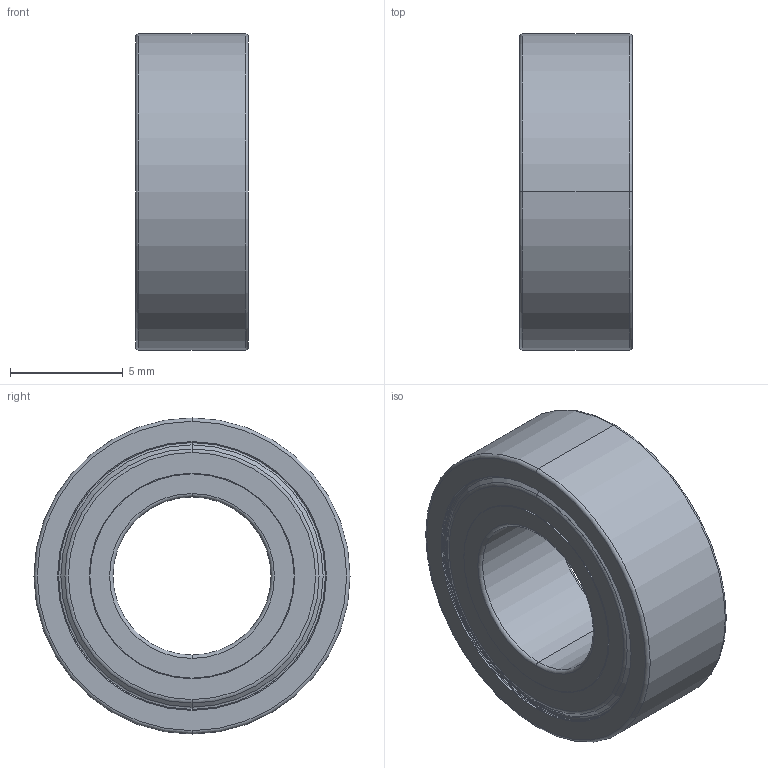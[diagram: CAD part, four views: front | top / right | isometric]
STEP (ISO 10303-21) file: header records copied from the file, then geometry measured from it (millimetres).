
FILE_DESCRIPTION((''),'2;1');
FILE_NAME('687ZZ-EA023','2025-12-19T16:37:49',('qinghui.yi'),(''),'CREO PARAMETRIC BY PTC INC, 2019164','CREO PARAMETRIC BY PTC INC, 2019164','');
FILE_SCHEMA(('CONFIG_CONTROL_DESIGN','SHAPE_APPEARANCE_LAYERS_GROUPS'));
Length unit declared in the file: millimetre
Products named in the file (1): 687ZZ-EA023
Bounding box: 5 x 14 x 14 mm (x, y, z)
Volume: 360.4 mm3; surface area: 1013.2 mm2
Topology: 2 solids, 2 shells, 88 faces, 178 edges, 104 vertices
Faces by surface type: torus 34, cylinder 24, cone 16, plane 14
Entity records: 2575 total; most frequent: DIRECTION 492, CARTESIAN_POINT 370, ORIENTED_EDGE 356, AXIS2_PLACEMENT_3D 226, COLOUR_RGB 196, EDGE_CURVE 178, CIRCLE 138, VERTEX_POINT 104
